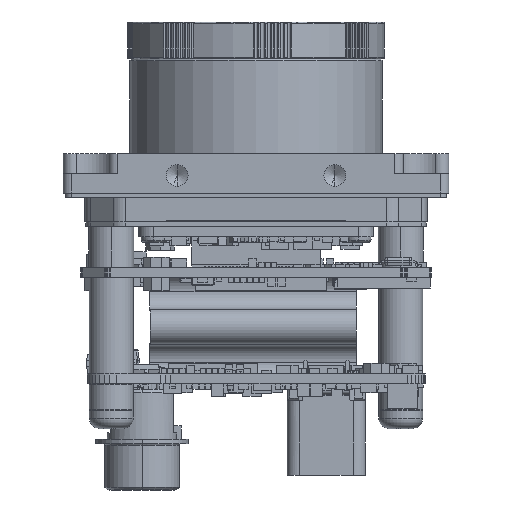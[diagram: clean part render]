
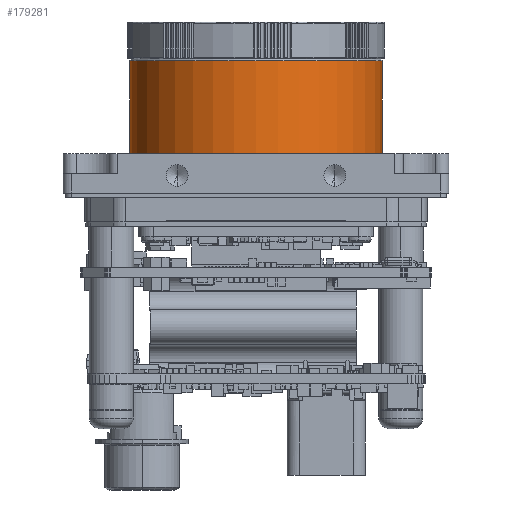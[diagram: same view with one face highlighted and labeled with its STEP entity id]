
A CAD part, front view. The second image highlights one B-rep face of the part: STEP entity #179281.
In plain terms, the highlighted cylindrical face has radius 14.4 mm (diameter 28.8 mm), a partial arc.
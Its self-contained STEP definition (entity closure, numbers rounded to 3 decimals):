
#7725 = CARTESIAN_POINT ( 'NONE',  ( -14.4, 0., 59.329 ) ) ;
#10485 = CARTESIAN_POINT ( 'NONE',  ( 0., 0., -0.2 ) ) ;
#11726 = VERTEX_POINT ( 'NONE', #94077 ) ;
#19800 = VECTOR ( 'NONE', #187606, 1000. ) ;
#24854 = DIRECTION ( 'NONE',  ( -1., 0., 0. ) ) ;
#29060 = VERTEX_POINT ( 'NONE', #78155 ) ;
#61932 = FACE_OUTER_BOUND ( 'NONE', #130514, .T. ) ;
#66126 = ORIENTED_EDGE ( 'NONE', *, *, #180771, .T. ) ;
#73550 = EDGE_CURVE ( 'NONE', #107984, #247137, #203563, .T. ) ;
#78155 = CARTESIAN_POINT ( 'NONE',  ( -14.4, 0., -10.8 ) ) ;
#78165 = ORIENTED_EDGE ( 'NONE', *, *, #183440, .T. ) ;
#94077 = CARTESIAN_POINT ( 'NONE',  ( 14.4, 0., -10.8 ) ) ;
#107984 = VERTEX_POINT ( 'NONE', #168491 ) ;
#121485 = CYLINDRICAL_SURFACE ( 'NONE', #229922, 14.4 ) ;
#130514 = EDGE_LOOP ( 'NONE', ( #150710, #135757, #78165, #66126 ) ) ;
#131993 = LINE ( 'NONE', #7725, #19800 ) ;
#135757 = ORIENTED_EDGE ( 'NONE', *, *, #73550, .T. ) ;
#140118 = CARTESIAN_POINT ( 'NONE',  ( 0., 0., -10.8 ) ) ;
#142622 = CARTESIAN_POINT ( 'NONE',  ( 0., 0., 59.329 ) ) ;
#144149 = CARTESIAN_POINT ( 'NONE',  ( 14.4, 0., 59.329 ) ) ;
#145440 = DIRECTION ( 'NONE',  ( 0., 0., -1. ) ) ;
#150710 = ORIENTED_EDGE ( 'NONE', *, *, #229946, .F. ) ;
#153038 = AXIS2_PLACEMENT_3D ( 'NONE', #10485, #170537, #251198 ) ;
#165249 = VECTOR ( 'NONE', #145440, 1000. ) ;
#167940 = LINE ( 'NONE', #144149, #165249 ) ;
#168491 = CARTESIAN_POINT ( 'NONE',  ( 14.4, 0., -0.2 ) ) ;
#170537 = DIRECTION ( 'NONE',  ( 0., 0., -1. ) ) ;
#171458 = AXIS2_PLACEMENT_3D ( 'NONE', #140118, #196993, #238013 ) ;
#179281 = ADVANCED_FACE ( 'NONE', ( #61932 ), #121485, .T. ) ;
#180771 = EDGE_CURVE ( 'NONE', #29060, #11726, #246902, .T. ) ;
#183440 = EDGE_CURVE ( 'NONE', #247137, #29060, #131993, .T. ) ;
#186202 = DIRECTION ( 'NONE',  ( 0., 0., -1. ) ) ;
#187606 = DIRECTION ( 'NONE',  ( 0., 0., -1. ) ) ;
#192104 = CARTESIAN_POINT ( 'NONE',  ( -14.4, 0., -0.2 ) ) ;
#196993 = DIRECTION ( 'NONE',  ( 0., 0., 1. ) ) ;
#203563 = CIRCLE ( 'NONE', #153038, 14.4 ) ;
#229922 = AXIS2_PLACEMENT_3D ( 'NONE', #142622, #186202, #24854 ) ;
#229946 = EDGE_CURVE ( 'NONE', #107984, #11726, #167940, .T. ) ;
#238013 = DIRECTION ( 'NONE',  ( -1., 0., 0. ) ) ;
#246902 = CIRCLE ( 'NONE', #171458, 14.4 ) ;
#247137 = VERTEX_POINT ( 'NONE', #192104 ) ;
#251198 = DIRECTION ( 'NONE',  ( -1., 0., 0. ) ) ;
